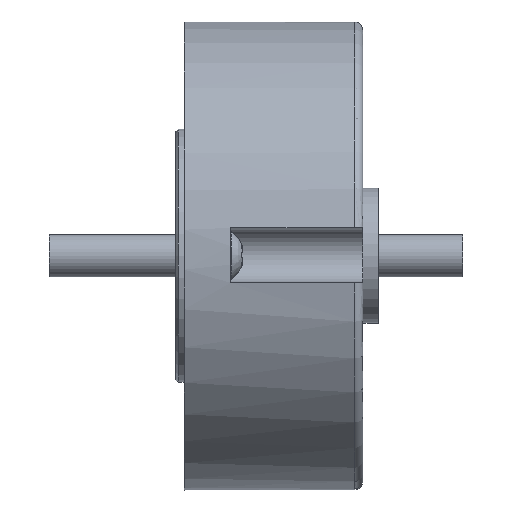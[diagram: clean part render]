
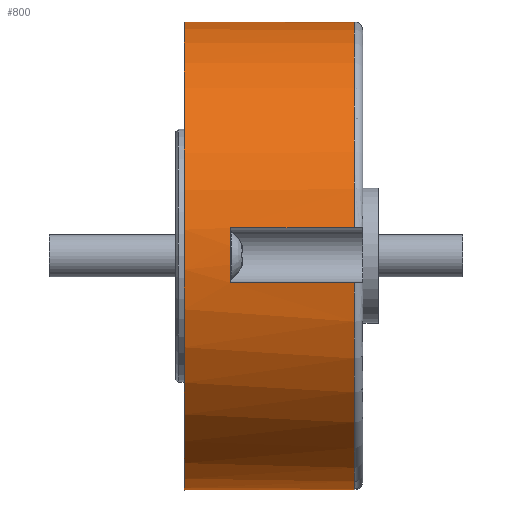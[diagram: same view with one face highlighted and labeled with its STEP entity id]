
A CAD part, top view. The second image highlights one B-rep face of the part: STEP entity #800.
In plain terms, the highlighted cylindrical face has radius 27.75 mm (diameter 55.5 mm), a full revolution.
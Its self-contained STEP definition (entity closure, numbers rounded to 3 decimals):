
#657=CARTESIAN_POINT('',(684.741,394.425,176.192));
#658=VERTEX_POINT('',#657);
#659=CARTESIAN_POINT('',(699.391,394.425,176.192));
#660=VERTEX_POINT('',#659);
#661=CARTESIAN_POINT('',(692.126,394.425,176.192));
#662=DIRECTION('',(1.,0.,0.));
#663=VECTOR('',#662,0.98);
#664=LINE('',#661,#663);
#665=EDGE_CURVE('',#658,#660,#664,.T.);
#666=ORIENTED_EDGE('',*,*,#665,.T.);
#667=CARTESIAN_POINT('',(699.391,416.666,214.716));
#668=VERTEX_POINT('',#667);
#669=CARTESIAN_POINT('',(699.391,419.916,187.157));
#670=DIRECTION('',(1.,0.,0.));
#671=DIRECTION('',(0.,-0.117,0.993));
#672=AXIS2_PLACEMENT_3D('',#669,#670,#671);
#673=CIRCLE('',#672,27.75);
#674=EDGE_CURVE('',#668,#660,#673,.T.);
#675=ORIENTED_EDGE('',*,*,#674,.F.);
#676=CARTESIAN_POINT('',(684.741,416.666,214.716));
#677=VERTEX_POINT('',#676);
#678=CARTESIAN_POINT('',(692.126,416.666,214.716));
#679=DIRECTION('',(-1.,0.,0.));
#680=VECTOR('',#679,0.996);
#681=LINE('',#678,#680);
#682=EDGE_CURVE('',#668,#677,#681,.T.);
#683=ORIENTED_EDGE('',*,*,#682,.T.);
#684=CARTESIAN_POINT('',(684.741,423.166,214.716));
#685=VERTEX_POINT('',#684);
#686=CARTESIAN_POINT('',(684.741,419.916,187.157));
#687=DIRECTION('',(-1.,0.,0.));
#688=DIRECTION('',(0.,0.,1.));
#689=AXIS2_PLACEMENT_3D('',#686,#687,#688);
#690=CIRCLE('',#689,27.75);
#691=EDGE_CURVE('',#677,#685,#690,.T.);
#692=ORIENTED_EDGE('',*,*,#691,.T.);
#693=CARTESIAN_POINT('',(699.391,423.166,214.716));
#694=VERTEX_POINT('',#693);
#695=CARTESIAN_POINT('',(692.126,423.166,214.716));
#696=DIRECTION('',(1.,0.,0.));
#697=VECTOR('',#696,0.98);
#698=LINE('',#695,#697);
#699=EDGE_CURVE('',#685,#694,#698,.T.);
#700=ORIENTED_EDGE('',*,*,#699,.T.);
#701=CARTESIAN_POINT('',(699.391,445.408,176.192));
#702=VERTEX_POINT('',#701);
#703=CARTESIAN_POINT('',(699.391,419.916,187.157));
#704=DIRECTION('',(1.,0.,0.));
#705=DIRECTION('',(0.,-0.117,0.993));
#706=AXIS2_PLACEMENT_3D('',#703,#704,#705);
#707=CIRCLE('',#706,27.75);
#708=EDGE_CURVE('',#702,#694,#707,.T.);
#709=ORIENTED_EDGE('',*,*,#708,.F.);
#710=CARTESIAN_POINT('',(684.741,445.408,176.192));
#711=VERTEX_POINT('',#710);
#712=CARTESIAN_POINT('',(692.126,445.408,176.192));
#713=DIRECTION('',(-1.,0.,0.));
#714=VECTOR('',#713,0.996);
#715=LINE('',#712,#714);
#716=EDGE_CURVE('',#702,#711,#715,.T.);
#717=ORIENTED_EDGE('',*,*,#716,.T.);
#718=CARTESIAN_POINT('',(684.741,442.158,170.563));
#719=VERTEX_POINT('',#718);
#720=CARTESIAN_POINT('',(684.741,419.916,187.157));
#721=DIRECTION('',(-1.,0.,0.));
#722=DIRECTION('',(0.,-0.117,0.993));
#723=AXIS2_PLACEMENT_3D('',#720,#721,#722);
#724=CIRCLE('',#723,27.75);
#725=EDGE_CURVE('',#711,#719,#724,.T.);
#726=ORIENTED_EDGE('',*,*,#725,.T.);
#727=CARTESIAN_POINT('',(699.391,442.158,170.563));
#728=VERTEX_POINT('',#727);
#729=CARTESIAN_POINT('',(692.126,442.158,170.563));
#730=DIRECTION('',(1.,0.,0.));
#731=VECTOR('',#730,0.996);
#732=LINE('',#729,#731);
#733=EDGE_CURVE('',#719,#728,#732,.T.);
#734=ORIENTED_EDGE('',*,*,#733,.T.);
#735=CARTESIAN_POINT('',(699.391,432.358,162.352));
#736=VERTEX_POINT('',#735);
#737=CARTESIAN_POINT('',(699.391,419.916,187.157));
#738=DIRECTION('',(1.,0.,0.));
#739=DIRECTION('',(0.,-0.117,0.993));
#740=AXIS2_PLACEMENT_3D('',#737,#738,#739);
#741=CIRCLE('',#740,27.75);
#742=EDGE_CURVE('',#736,#728,#741,.T.);
#743=ORIENTED_EDGE('',*,*,#742,.F.);
#744=CARTESIAN_POINT('',(679.241,432.358,162.352));
#745=VERTEX_POINT('',#744);
#746=CARTESIAN_POINT('',(692.126,432.358,162.352));
#747=DIRECTION('',(1.,0.,0.));
#748=VECTOR('',#747,27.75);
#749=LINE('',#746,#748);
#750=EDGE_CURVE('',#745,#736,#749,.T.);
#751=ORIENTED_EDGE('',*,*,#750,.F.);
#752=CARTESIAN_POINT('',(679.241,419.916,159.407));
#753=VERTEX_POINT('',#752);
#754=CARTESIAN_POINT('',(679.241,419.916,187.157));
#755=DIRECTION('',(1.,0.,0.));
#756=DIRECTION('',(0.,0.,-1.));
#757=AXIS2_PLACEMENT_3D('',#754,#755,#756);
#758=CIRCLE('',#757,27.75);
#759=EDGE_CURVE('',#745,#753,#758,.T.);
#760=ORIENTED_EDGE('',*,*,#759,.T.);
#761=CARTESIAN_POINT('',(679.241,419.916,187.157));
#762=DIRECTION('',(1.,0.,0.));
#763=DIRECTION('',(0.,0.,-1.));
#764=AXIS2_PLACEMENT_3D('',#761,#762,#763);
#765=CIRCLE('',#764,27.75);
#766=EDGE_CURVE('',#753,#745,#765,.T.);
#767=ORIENTED_EDGE('',*,*,#766,.T.);
#768=ORIENTED_EDGE('',*,*,#750,.T.);
#769=CARTESIAN_POINT('',(699.391,397.675,170.563));
#770=VERTEX_POINT('',#769);
#771=CARTESIAN_POINT('',(699.391,419.916,187.157));
#772=DIRECTION('',(1.,0.,0.));
#773=DIRECTION('',(0.,-0.117,0.993));
#774=AXIS2_PLACEMENT_3D('',#771,#772,#773);
#775=CIRCLE('',#774,27.75);
#776=EDGE_CURVE('',#770,#736,#775,.T.);
#777=ORIENTED_EDGE('',*,*,#776,.F.);
#778=CARTESIAN_POINT('',(684.741,397.675,170.563));
#779=VERTEX_POINT('',#778);
#780=CARTESIAN_POINT('',(692.126,397.675,170.563));
#781=DIRECTION('',(-1.,0.,0.));
#782=VECTOR('',#781,0.996);
#783=LINE('',#780,#782);
#784=EDGE_CURVE('',#770,#779,#783,.T.);
#785=ORIENTED_EDGE('',*,*,#784,.T.);
#786=CARTESIAN_POINT('',(684.741,419.916,187.157));
#787=DIRECTION('',(-1.,0.,0.));
#788=DIRECTION('',(0.,0.,1.));
#789=AXIS2_PLACEMENT_3D('',#786,#787,#788);
#790=CIRCLE('',#789,27.75);
#791=EDGE_CURVE('',#779,#658,#790,.T.);
#792=ORIENTED_EDGE('',*,*,#791,.T.);
#793=EDGE_LOOP('',(#666,#675,#683,#692,#700,#709,#717,#726,#734,#743,#751,#760,#767,#768,#777,#785,#792));
#794=FACE_OUTER_BOUND('',#793,.T.);
#795=CARTESIAN_POINT('',(692.126,419.916,187.157));
#796=DIRECTION('',(1.,0.,0.));
#797=DIRECTION('',(0.,0.448,-0.894));
#798=AXIS2_PLACEMENT_3D('',#795,#796,#797);
#799=CYLINDRICAL_SURFACE('',#798,27.75);
#800=ADVANCED_FACE('',(#794),#799,.T.);
